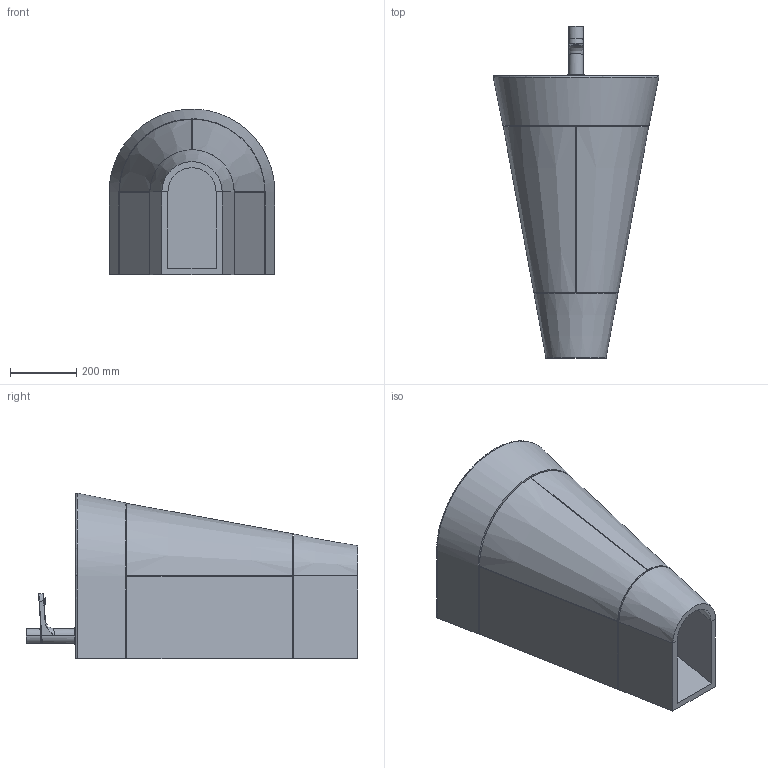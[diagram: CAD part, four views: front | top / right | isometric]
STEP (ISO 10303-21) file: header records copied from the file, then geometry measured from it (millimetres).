
FILE_DESCRIPTION (( 'STEP AP203' ), '1' );
FILE_NAME ('MBF 50.STEP', '2019-02-07T13:59:09', ( '' ), ( '' ), 'SwSTEP 2.0', 'SolidWorks 2019', '' );
FILE_SCHEMA (( 'CONFIG_CONTROL_DESIGN' ));
Length unit declared in the file: millimetre
Products named in the file (7): FORMAmobile50BASEC; FORMAmobile50SCOCCAC; MBF 50; MONOCOMANDO LAVABO AZ 21; FORMA50 LAVABO; SIFONE LAVABO SOSPESO; FORMAmobile50ANTAC
Assembly tree (7 placements, depth 2):
  MBF 50
    FORMAmobile50SCOCCAC
    FORMAmobile50ANTAC  x2
    FORMAmobile50BASEC
    MONOCOMANDO LAVABO AZ 21
    SIFONE LAVABO SOSPESO
    FORMA50 LAVABO
Bounding box: 498.24 x 1000 x 499 mm (x, y, z)
Volume: 29367749.3 mm3; surface area: 3397924.9 mm2
Topology: 7 solids, 7 shells, 371 faces, 915 edges, 567 vertices
Faces by surface type: cylinder 104, plane 102, bspline 89, torus 48, cone 19, sphere 9
Entity records: 23666 total; most frequent: CARTESIAN_POINT 14919, ORIENTED_EDGE 1776, DIRECTION 1588, EDGE_CURVE 888, AXIS2_PLACEMENT_3D 635, VERTEX_POINT 549, EDGE_LOOP 383, FACE_OUTER_BOUND 361
